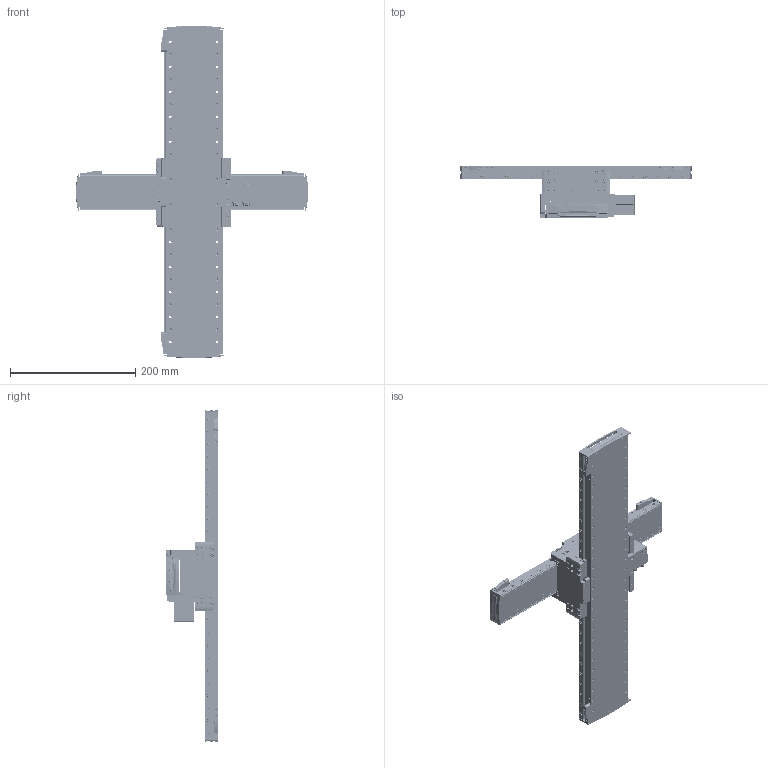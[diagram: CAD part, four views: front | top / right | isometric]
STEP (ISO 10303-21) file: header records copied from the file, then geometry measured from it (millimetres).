
FILE_DESCRIPTION (( 'STEP AP214' ), '1' );
FILE_NAME ('cross table Lxs X-400F60 Lxu Y-240F60.STEP', '2024-03-20T15:03:28', ( '' ), ( '' ), 'SwSTEP 2.0', 'SolidWorks 2024', '' );
FILE_SCHEMA (( 'AUTOMOTIVE_DESIGN' ));
Length unit declared in the file: millimetre
Products named in the file (53): Jenny Science 5619; Jenny Science 5627; Jenny Science 5607; Jenny Science 5630; Jenny Science 5604; Jenny Science 5617; Jenny Science 5633; Jenny Science 5587; Jenny Science 5632; Jenny Science 5626; Jenny Science 5605; Jenny Science 5601; Jenny Science 5625; Jenny Science 5615; Jenny Science 5614; Jenny Science 5592; Jenny Science 5600; Jenny Science 5628; Jenny Science 5624; Jenny Science 5623; Jenny Science 5603; Jenny Science 5599; Jenny Science 5610; Jenny Science 5606; Jenny Science 5593; Jenny Science 5621; Jenny Science 5622; Jenny Science 5589; Jenny Science 5629; Jenny Science 5612; Jenny Science 5635; Jenny Science 5613; Jenny Science 5596; Jenny Science 5608; Jenny Science 5584; Jenny Science 5583; Jenny Science 5598; Jenny Science 5585; Jenny Science 5634; Jenny Science 5590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
Assembly tree (294 placements, depth 4):
  Jenny Science 5584
    Jenny Science 5609
      Jenny Science 5598
      Jenny Science 5602  x2
      Jenny Science 5630  x4
      Jenny Science 5633  x2
      Jenny Science 5593  x2
      Jenny Science 5626  x2
      Jenny Science 5610  x4
      Jenny Science 5629  x2
      Jenny Science 5608  x52
      Jenny Science 5590  x2
    Jenny Science 5587
      Jenny Science 5628
      Jenny Science 5622
      Jenny Science 5624  x6
      Jenny Science 5613  x4
        Jenny Science 5621
        Jenny Science 5607
      Jenny Science 5630  x16
      Jenny Science 5635  x2
      Jenny Science 5626  x4
      Jenny Science 5592
      Jenny Science 5606  x2
      Jenny Science 5605
        Jenny Science 5588
        Jenny Science 5616  x2
        Jenny Science 5594
        Jenny Science 5604
        Jenny Science 5599  x4
        Jenny Science 5591  x2
        Jenny Science 5627  x2
        Jenny Science 5632
      Jenny Science 5615
      Jenny Science 5619  x2
      Jenny Science 5617  x2
      Jenny Science 5603  x2
      Jenny Science 5585
    Jenny Science 5623
      Jenny Science 5611
      Jenny Science 5620  x2
      Jenny Science 5597  x36
      Jenny Science 5633  x2
      Jenny Science 5593  x2
      Jenny Science 5626  x2
      Jenny Science 5610  x4
      Jenny Science 5583  x2
      Jenny Science 5608  x36
      Jenny Science 5612
      Jenny Science 5600  x2
    Jenny Science 5614
      Jenny Science 5589
      Jenny Science 5631
      Jenny Science 5613  x4
        Jenny Science 5621
        Jenny Science 5607
      Jenny Science 5630  x16
      Jenny Science 5634  x4
      Jenny Science 5625  x2
      Jenny Science 5626  x4
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Bounding box: 370.75 x 84 x 530.81 mm (x, y, z)
Volume: 1612795.7 mm3; surface area: 525886.8 mm2
Topology: 301 solids, 301 shells, 11892 faces, 28438 edges, 16932 vertices
Faces by surface type: cylinder 4481, plane 3369, cone 3082, torus 900, sphere 36, bspline 24
Entity records: 126207 total; most frequent: CARTESIAN_POINT 22729, DIRECTION 20189, ORIENTED_EDGE 17224, EDGE_CURVE 8612, AXIS2_PLACEMENT_3D 7998, VERTEX_POINT 5473, EDGE_LOOP 4719, VECTOR 4193
